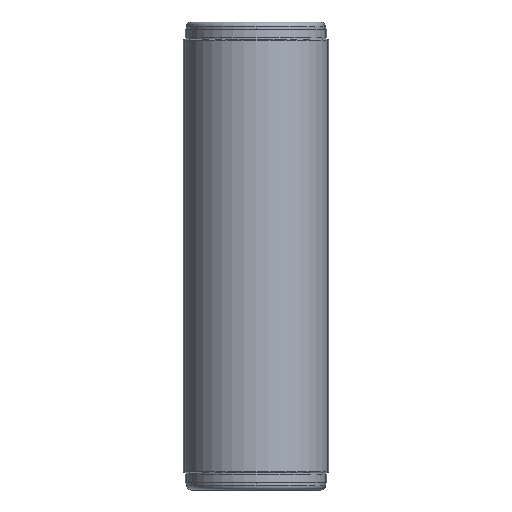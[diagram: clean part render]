
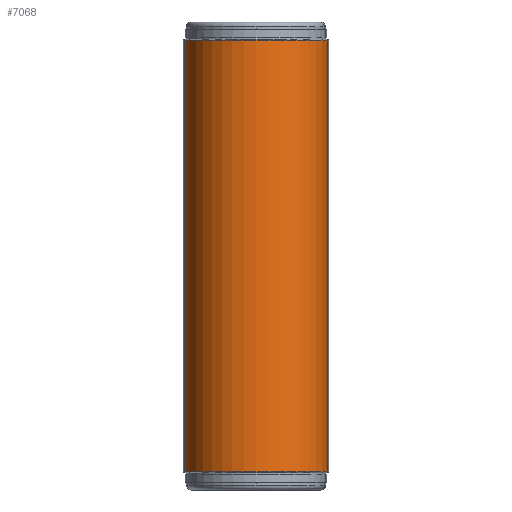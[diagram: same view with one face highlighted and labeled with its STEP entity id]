
A CAD part, left-side view. The second image highlights one B-rep face of the part: STEP entity #7068.
In plain terms, the highlighted cylindrical face has radius 75.3 mm (diameter 150.6 mm), a partial arc.
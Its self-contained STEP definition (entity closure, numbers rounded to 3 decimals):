
#300 = EDGE_CURVE ( 'NONE', #712, #1755, #6973, .T. ) ;
#546 = DIRECTION ( 'NONE',  ( 1., 0., 0. ) ) ;
#659 = DIRECTION ( 'NONE',  ( 0., 0., -1. ) ) ;
#712 = VERTEX_POINT ( 'NONE', #6613 ) ;
#1015 = CYLINDRICAL_SURFACE ( 'NONE', #4766, 75.3 ) ;
#1043 = VERTEX_POINT ( 'NONE', #7215 ) ;
#1506 = EDGE_CURVE ( 'NONE', #1755, #1043, #8176, .T. ) ;
#1755 = VERTEX_POINT ( 'NONE', #4625 ) ;
#1856 = EDGE_LOOP ( 'NONE', ( #3348, #8229, #6055, #2746 ) ) ;
#1874 = DIRECTION ( 'NONE',  ( 1., 0., 0. ) ) ;
#1997 = VECTOR ( 'NONE', #659, 1000. ) ;
#2547 = EDGE_CURVE ( 'NONE', #5159, #1043, #7813, .T. ) ;
#2557 = VECTOR ( 'NONE', #8375, 1000. ) ;
#2583 = AXIS2_PLACEMENT_3D ( 'NONE', #5992, #5286, #546 ) ;
#2746 = ORIENTED_EDGE ( 'NONE', *, *, #300, .F. ) ;
#3045 = CARTESIAN_POINT ( 'NONE',  ( -4.374, -75.173, 227.6 ) ) ;
#3348 = ORIENTED_EDGE ( 'NONE', *, *, #3617, .T. ) ;
#3617 = EDGE_CURVE ( 'NONE', #712, #5159, #4235, .T. ) ;
#4235 = LINE ( 'NONE', #6781, #1997 ) ;
#4625 = CARTESIAN_POINT ( 'NONE',  ( -4.374, -75.173, 227.6 ) ) ;
#4681 = DIRECTION ( 'NONE',  ( 0., 0., 1. ) ) ;
#4703 = CARTESIAN_POINT ( 'NONE',  ( 0., 0., 0. ) ) ;
#4735 = CARTESIAN_POINT ( 'NONE',  ( 0., 0., 227.6 ) ) ;
#4766 = AXIS2_PLACEMENT_3D ( 'NONE', #4703, #4681, #1874 ) ;
#5159 = VERTEX_POINT ( 'NONE', #7189 ) ;
#5286 = DIRECTION ( 'NONE',  ( 0., 0., 1. ) ) ;
#5992 = CARTESIAN_POINT ( 'NONE',  ( 0., 0., -227.6 ) ) ;
#6055 = ORIENTED_EDGE ( 'NONE', *, *, #1506, .F. ) ;
#6613 = CARTESIAN_POINT ( 'NONE',  ( -4.374, 75.173, 227.6 ) ) ;
#6777 = DIRECTION ( 'NONE',  ( 0., 0., 1. ) ) ;
#6781 = CARTESIAN_POINT ( 'NONE',  ( -4.374, 75.173, 227.6 ) ) ;
#6973 = CIRCLE ( 'NONE', #8485, 75.3 ) ;
#7068 = ADVANCED_FACE ( 'NONE', ( #8255 ), #1015, .T. ) ;
#7189 = CARTESIAN_POINT ( 'NONE',  ( -4.374, 75.173, -227.6 ) ) ;
#7215 = CARTESIAN_POINT ( 'NONE',  ( -4.374, -75.173, -227.6 ) ) ;
#7813 = CIRCLE ( 'NONE', #2583, 75.3 ) ;
#8113 = DIRECTION ( 'NONE',  ( 1., 0., 0. ) ) ;
#8176 = LINE ( 'NONE', #3045, #2557 ) ;
#8229 = ORIENTED_EDGE ( 'NONE', *, *, #2547, .T. ) ;
#8255 = FACE_OUTER_BOUND ( 'NONE', #1856, .T. ) ;
#8375 = DIRECTION ( 'NONE',  ( 0., 0., -1. ) ) ;
#8485 = AXIS2_PLACEMENT_3D ( 'NONE', #4735, #6777, #8113 ) ;
